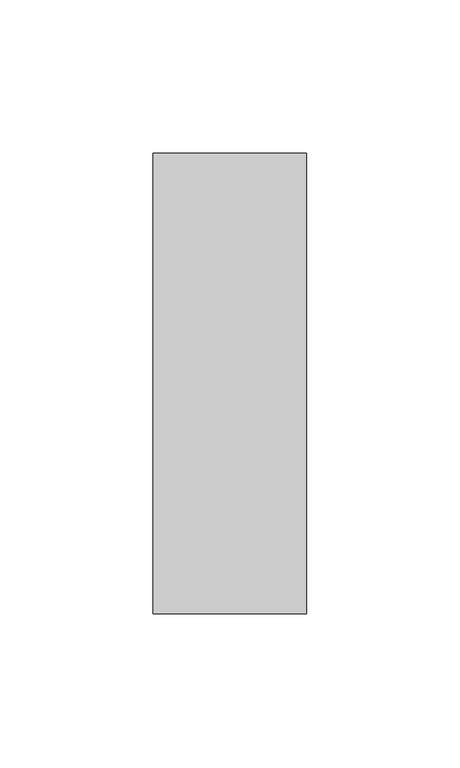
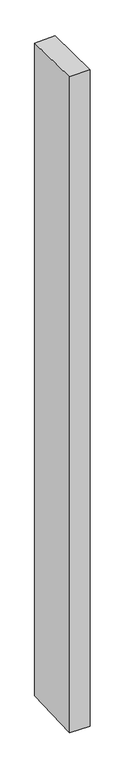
"""IFC4 building model written with IfcOpenShell, lengths in millimetres: member geometry, Прямоугольный импост : 50 x 150 мм."""

from ifc_helpers import new_model, si_unit, origin, place, context, project, spatial, faceted_brep, source, transform, mapped, element, save


def member_5d36bc5c(model_context):
    return source(origin(), model_context, "Body", "Brep", [
        faceted_brep([(-25.0, 75.0, -1.9023918), (25.0, 75.0, -0.8160378), (25.0, 75.0, -1706.5383201), (-25.0, 75.0, -1705.4052209), (-25.0, -75.0, 0.8160378), (-25.0, -75.0, -1710.8835592), (25.0, -75.0, 1.9023918), (25.0, -75.0, -1712.0166584)], [[[0, 1, 2, 3]], [[4, 0, 3, 5]], [[6, 4, 5, 7]], [[1, 6, 7, 2]], [[1, 0, 4, 6]], [[2, 7, 5, 3]]]),
    ])


if __name__ == "__main__":
    model = new_model("IFC4")
    model_context = context("Model", 3, world=origin())
    ifc_project = project(units=[si_unit("LENGTHUNIT", "METRE", prefix="MILLI")], contexts=[model_context])
    site = spatial("IfcSite", under=ifc_project)
    building = spatial("IfcBuilding", under=site)
    placement = place(None, origin())
    member_shape = member_5d36bc5c(model_context)
    element("IfcMember", 1, ObjectType="Прямоугольный импост : 50 x 150 мм", at=placement, inside=building, context=model_context, shape_type="MappedRepresentation", body=[
        mapped(member_shape, transform((0.0, 0.0, 0.0), x_axis=(1.0, 0.0, 0.0), y_axis=(0.0, 1.0, 0.0), z_axis=(0.0, 0.0, 1.0))),
    ])
    save(model, "model.ifc")
